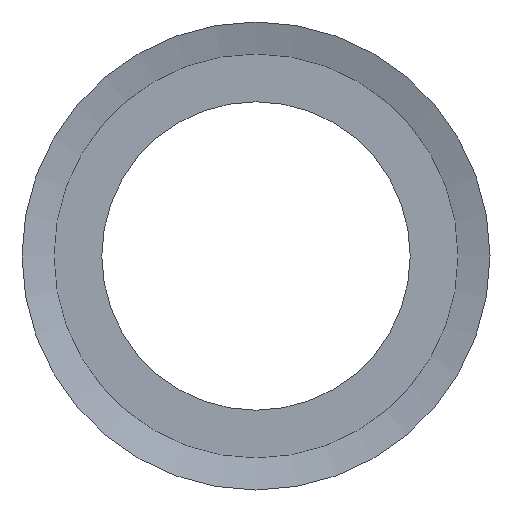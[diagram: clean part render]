
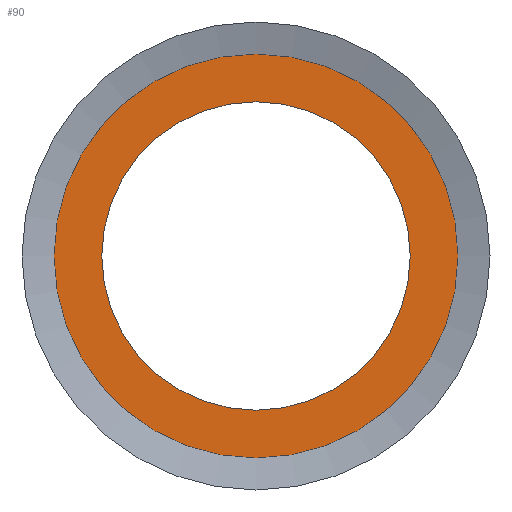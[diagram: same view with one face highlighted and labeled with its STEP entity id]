
A CAD part, left-side view. The second image highlights one B-rep face of the part: STEP entity #90.
In plain terms, the highlighted planar face has unit normal (-1, 0, 0).
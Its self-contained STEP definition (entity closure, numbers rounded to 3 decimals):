
#15=FACE_BOUND('',#31,.T.);
#17=PLANE('',#123);
#24=FACE_OUTER_BOUND('',#30,.T.);
#30=EDGE_LOOP('',(#77));
#31=EDGE_LOOP('',(#78));
#46=CIRCLE('',#122,9.5);
#47=CIRCLE('',#124,7.25);
#52=VERTEX_POINT('',#170);
#53=VERTEX_POINT('',#174);
#61=EDGE_CURVE('',#52,#52,#46,.T.);
#62=EDGE_CURVE('',#53,#53,#47,.T.);
#77=ORIENTED_EDGE('',*,*,#61,.T.);
#78=ORIENTED_EDGE('',*,*,#62,.F.);
#90=ADVANCED_FACE('',(#24,#15),#17,.T.);
#122=AXIS2_PLACEMENT_3D('',#172,#145,#146);
#123=AXIS2_PLACEMENT_3D('',#173,#147,#148);
#124=AXIS2_PLACEMENT_3D('',#175,#149,#150);
#145=DIRECTION('center_axis',(-1.,0.,0.));
#146=DIRECTION('ref_axis',(0.,0.,1.));
#147=DIRECTION('center_axis',(-1.,0.,0.));
#148=DIRECTION('ref_axis',(0.,0.,1.));
#149=DIRECTION('center_axis',(-1.,0.,0.));
#150=DIRECTION('ref_axis',(0.,0.,1.));
#170=CARTESIAN_POINT('',(-0.5,-9.5,0.));
#172=CARTESIAN_POINT('Origin',(-0.5,0.,
0.));
#173=CARTESIAN_POINT('Origin',(-0.5,7.25,0.));
#174=CARTESIAN_POINT('',(-0.5,-7.25,0.));
#175=CARTESIAN_POINT('Origin',(-0.5,0.,
0.));
